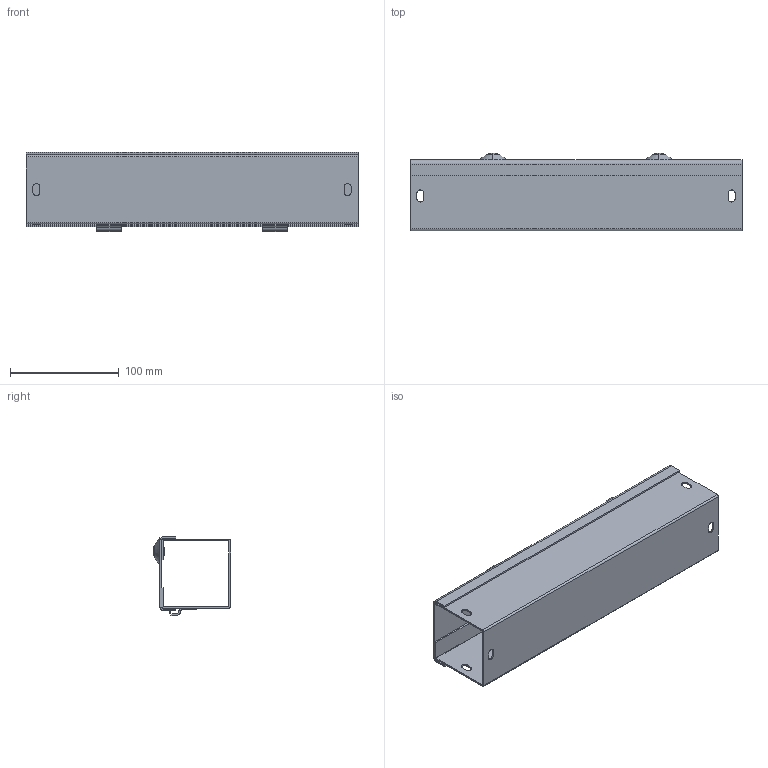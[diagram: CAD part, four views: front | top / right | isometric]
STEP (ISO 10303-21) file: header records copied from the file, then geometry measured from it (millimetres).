
FILE_DESCRIPTION((''),'1');
FILE_NAME('4','2001-04-18T',('jlue'),(''),'PRO/ENGINEER BY PARAMETRIC TECHNOLOGY CORPORATION, 9846','PRO/ENGINEER BY PARAMETRIC TECHNOLOGY CORPORATION, 9846','');
FILE_SCHEMA(('CONFIG_CONTROL_DESIGN'));
Length unit declared in the file: inch
Products named in the file (1): 4
Bounding box: 304.8 x 70.88 x 72.53 mm (x, y, z)
Surface area: 173985.9 mm2 (no closed solid volume)
Topology: 0 solids, 0 shells, 170 faces, 895 edges, 900 vertices
Faces by surface type: plane 102, cylinder 52, cone 8, bspline 8
Entity records: 4723 total; most frequent: DIRECTION 906, COMPOSITE_CURVE_SEGMENT 890, CARTESIAN_POINT 836, TRIMMED_CURVE 450, VECTOR 318, LINE 318, AXIS2_PLACEMENT_3D 294, CURVE_BOUNDED_SURFACE 170
